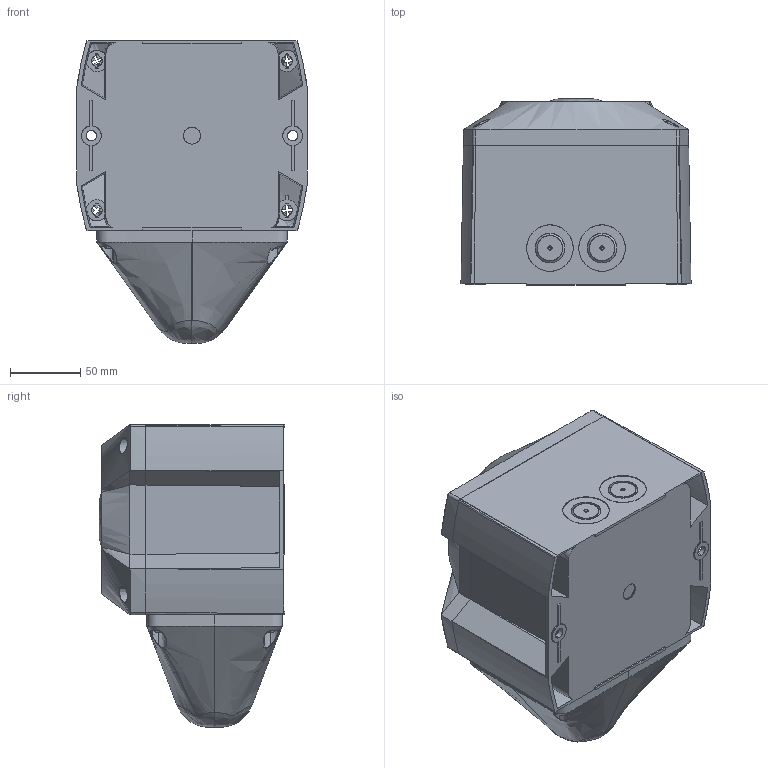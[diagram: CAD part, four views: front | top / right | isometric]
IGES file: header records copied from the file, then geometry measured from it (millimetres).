
Start section: SolidWorks IGES file using analytic representation for surfaces
Global section: file name: L:\3D Volumenmodelle\PATROL_PYRA\PA(X)5\PAX5_30304-100.IGS; native system: SolidWorks 2011; preprocessor: SolidWorks 2011; author: MMark; date: 120110.110514; units: millimetre
Bounding box: 163.42 x 132 x 215 mm (x, y, z)
Surface area: 206747.3 mm2 (no closed solid volume)
Topology: 0 solids, 0 shells, 323 faces, 5503 edges, 5502 vertices
Faces by surface type: bspline 223, revolution 100
